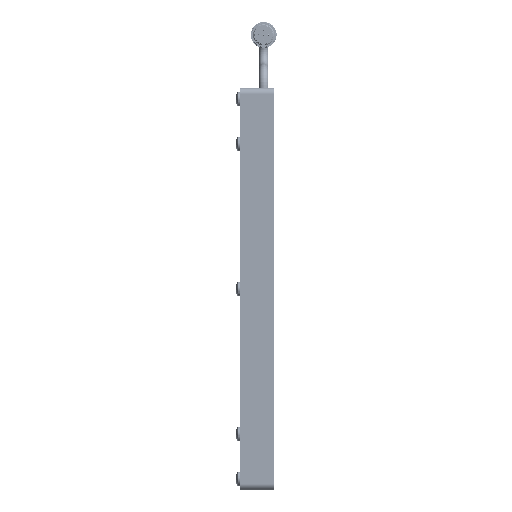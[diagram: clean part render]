
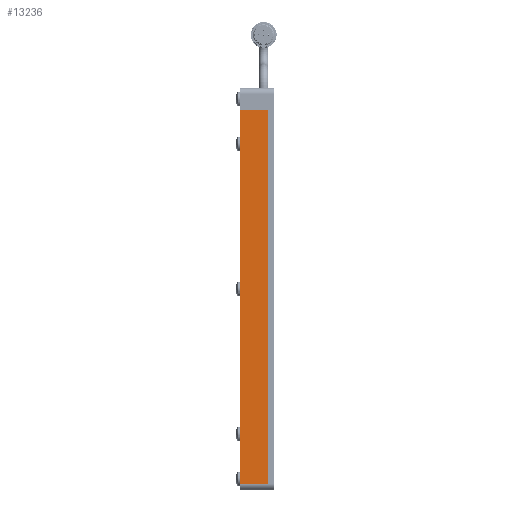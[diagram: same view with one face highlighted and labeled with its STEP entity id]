
A CAD part, left-side view. The second image highlights one B-rep face of the part: STEP entity #13236.
In plain terms, the highlighted planar face has unit normal (-1, 0, 0) as drawn and (0, 0, -1) by its records, which use the part's own axes.
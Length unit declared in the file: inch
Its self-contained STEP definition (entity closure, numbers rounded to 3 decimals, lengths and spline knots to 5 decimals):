
#702 = AXIS2_PLACEMENT_3D ( 'NONE', #12947, #19186, #14913 ) ;
#1132 = CARTESIAN_POINT ( 'NONE',  ( -4.5, -0.3125, -0.25 ) ) ;
#2415 = ORIENTED_EDGE ( 'NONE', *, *, #14497, .F. ) ;
#3357 = VECTOR ( 'NONE', #15218, 39.37008 ) ;
#3448 = CARTESIAN_POINT ( 'NONE',  ( 4.375, 0.3125, -0.25 ) ) ;
#4071 = CARTESIAN_POINT ( 'NONE',  ( -4.5, 0.3125, -0.25 ) ) ;
#4329 = CARTESIAN_POINT ( 'NONE',  ( -4., 0.3125, -0.25 ) ) ;
#4375 = LINE ( 'NONE', #1132, #16555 ) ;
#4763 = CARTESIAN_POINT ( 'NONE',  ( -4., -0.3125, -0.25 ) ) ;
#5310 = EDGE_CURVE ( 'NONE', #8840, #12696, #10619, .T. ) ;
#5642 = EDGE_LOOP ( 'NONE', ( #2415, #9971, #16890, #7409 ) ) ;
#5711 = DIRECTION ( 'NONE',  ( -1., 0., 0. ) ) ;
#5796 = CARTESIAN_POINT ( 'NONE',  ( -4., -0.3125, -0.25 ) ) ;
#6929 = FACE_OUTER_BOUND ( 'NONE', #5642, .T. ) ;
#7156 = DIRECTION ( 'NONE',  ( 0., 1., 0. ) ) ;
#7409 = ORIENTED_EDGE ( 'NONE', *, *, #14486, .T. ) ;
#7463 = VERTEX_POINT ( 'NONE', #4763 ) ;
#7828 = VECTOR ( 'NONE', #13581, 39.37008 ) ;
#8253 = VERTEX_POINT ( 'NONE', #4329 ) ;
#8481 = PLANE ( 'NONE',  #702 ) ;
#8840 = VERTEX_POINT ( 'NONE', #3448 ) ;
#9455 = VECTOR ( 'NONE', #7156, 39.37008 ) ;
#9658 = CARTESIAN_POINT ( 'NONE',  ( 4.375, 0.3125, -0.25 ) ) ;
#9971 = ORIENTED_EDGE ( 'NONE', *, *, #5310, .T. ) ;
#10511 = EDGE_CURVE ( 'NONE', #12696, #7463, #4375, .T. ) ;
#10619 = LINE ( 'NONE', #9658, #3357 ) ;
#12696 = VERTEX_POINT ( 'NONE', #20040 ) ;
#12947 = CARTESIAN_POINT ( 'NONE',  ( -4.5, 0.3125, -0.25 ) ) ;
#13236 = ADVANCED_FACE ( 'NONE', ( #6929 ), #8481, .F. ) ;
#13581 = DIRECTION ( 'NONE',  ( -1., 0., 0. ) ) ;
#14486 = EDGE_CURVE ( 'NONE', #7463, #8253, #18091, .T. ) ;
#14497 = EDGE_CURVE ( 'NONE', #8840, #8253, #16451, .T. ) ;
#14913 = DIRECTION ( 'NONE',  ( 1., 0., 0. ) ) ;
#15218 = DIRECTION ( 'NONE',  ( 0., -1., 0. ) ) ;
#16451 = LINE ( 'NONE', #4071, #7828 ) ;
#16555 = VECTOR ( 'NONE', #5711, 39.37008 ) ;
#16890 = ORIENTED_EDGE ( 'NONE', *, *, #10511, .T. ) ;
#18091 = LINE ( 'NONE', #5796, #9455 ) ;
#19186 = DIRECTION ( 'NONE',  ( 0., 0., 1. ) ) ;
#20040 = CARTESIAN_POINT ( 'NONE',  ( 4.375, -0.3125, -0.25 ) ) ;
